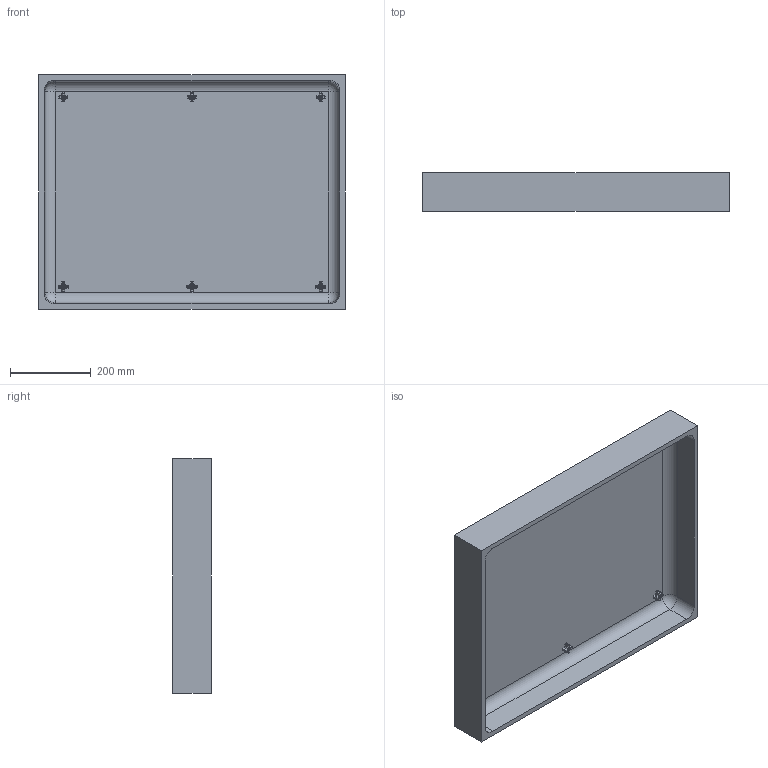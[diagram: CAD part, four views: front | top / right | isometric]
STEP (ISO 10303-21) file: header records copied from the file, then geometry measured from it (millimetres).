
FILE_DESCRIPTION (( 'STEP AP214' ), '1' );
FILE_NAME ('1630E - 932 TOP PID 2-21-2025.STEP', '2025-05-22T04:49:49', ( '' ), ( '' ), 'SwSTEP 2.0', 'SolidWorks 2021', '' );
FILE_SCHEMA (( 'AUTOMOTIVE_DESIGN' ));
Length unit declared in the file: inch
Products named in the file (1): 1630E - 932 TOP PID 2-21-2025
Bounding box: 756.11 x 95.25 x 578.31 mm (x, y, z)
Volume: 9003902.5 mm3; surface area: 1307007.2 mm2
Topology: 1 solids, 1 shells, 648 faces, 1393 edges, 755 vertices
Faces by surface type: bspline 168, cylinder 152, sphere 100, plane 83, torus 82, cone 63
Entity records: 21049 total; most frequent: CARTESIAN_POINT 8060, ORIENTED_EDGE 2776, DIRECTION 2711, EDGE_CURVE 1388, AXIS2_PLACEMENT_3D 1182, VERTEX_POINT 755, CIRCLE 701, EDGE_LOOP 661
